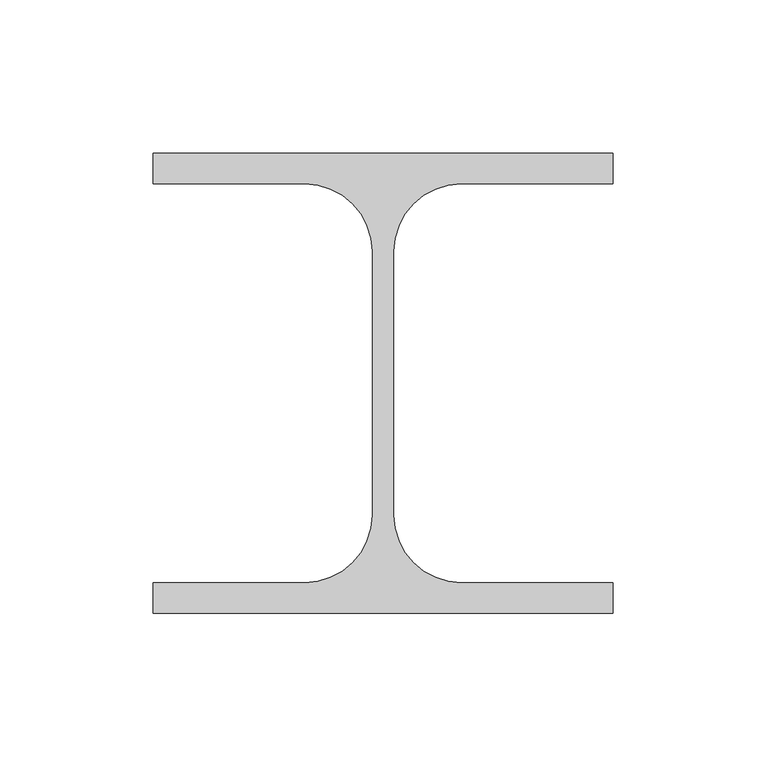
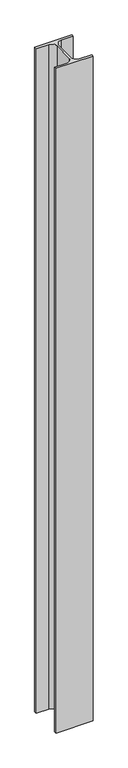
"""IFC4 building model written with IfcOpenShell, lengths in millimetres: column geometry, S柱 H型x : 階名+部材名."""

import ifcopenshell
import ifcopenshell.guid

model = None  # the IFC model being written
_history = None  # IfcOwnerHistory: only IFC2X3 demands one
_inside = {}  # id of a spatial element -> (the spatial element, [elements in it])
_under = {}  # id of a project, library or spatial element -> (it, [spatial elements below it])
_declared = {}  # id of a project -> (the project, [libraries it declares])
_typed = {}  # id of a type object -> (the type object, [elements of that type])
_made_of = {}  # id of a material, layer set ... -> (it, [elements and type objects made of it])


def new_model(schema):
    """Start an empty IFC model of exactly this schema.

    Asked for "IFC4X3", IfcOpenShell would pick the latest addendum, in which some entities
    have other attributes; the version numbers below select the first issue.
    IFC2X3 requires an IfcOwnerHistory on every rooted entity: one is made here for all.
    """
    global model, _history
    if schema == "IFC4X3":
        model = ifcopenshell.file(schema_version=(4, 3, 0, 0))
    else:
        model = ifcopenshell.file(schema=schema)
    _inside.clear()
    _under.clear()
    _declared.clear()
    _typed.clear()
    _made_of.clear()
    _history = None
    if model.schema == "IFC2X3":
        org = make("IfcOrganization", Name="unknown")
        user = make(
            "IfcPersonAndOrganization",
            ThePerson=make("IfcPerson", FamilyName="unknown"),
            TheOrganization=org,
        )
        app = make(
            "IfcApplication",
            ApplicationDeveloper=org,
            Version="unknown",
            ApplicationFullName="unknown",
            ApplicationIdentifier="unknown",
        )
        _history = make(
            "IfcOwnerHistory",
            OwningUser=user,
            OwningApplication=app,
            ChangeAction="ADDED",
            CreationDate=0,
        )
    return model


def make(cls, **values):
    """One entity of the class cls with the attributes given. An attribute that is None is left unset."""
    return model.create_entity(
        cls, **{name: value for name, value in values.items() if value is not None}
    )


def rooted(cls, **values):
    """An entity with a GlobalId (a new one), such as an element, a storey or a relation."""
    return make(cls, GlobalId=ifcopenshell.guid.new(), OwnerHistory=_history, **values)


def si_unit(unit_type, name, prefix=None):
    """IfcSIUnit, for example si_unit("LENGTHUNIT", "METRE", prefix="MILLI")."""
    return make("IfcSIUnit", UnitType=unit_type, Prefix=prefix, Name=name)


def assignment(units):
    """IfcUnitAssignment: the units of a project."""
    return None if units is None else make("IfcUnitAssignment", Units=units)


def point(xyz):
    """IfcCartesianPoint."""
    return None if xyz is None else make("IfcCartesianPoint", Coordinates=xyz)


def direction(xyz):
    """IfcDirection."""
    return None if xyz is None else make("IfcDirection", DirectionRatios=xyz)


def frame(location, z_axis=None, x_axis=None):
    """IfcAxis2Placement3D, a coordinate frame: its origin and axes. An axis left out is left unset."""
    return make(
        "IfcAxis2Placement3D",
        Location=point(location),
        Axis=direction(z_axis),
        RefDirection=direction(x_axis),
    )


def frame_2d(location, x_axis=None):
    """IfcAxis2Placement2D, a coordinate frame in the plane: its origin and x axis."""
    return make(
        "IfcAxis2Placement2D", Location=point(location), RefDirection=direction(x_axis)
    )


def origin():
    """The frame at (0, 0, 0) with its axes left unset."""
    return frame((0.0, 0.0, 0.0))


def place(relative_to, where):
    """IfcLocalPlacement: puts the frame where relative to a parent placement (None: the world)."""
    return make(
        "IfcLocalPlacement", PlacementRelTo=relative_to, RelativePlacement=where
    )


def context(
    kind, dimensions, precision=None, world=None, true_north=None, identifier=None
):
    """IfcGeometricRepresentationContext, for example the 3D "Model" context."""
    return make(
        "IfcGeometricRepresentationContext",
        ContextIdentifier=identifier,
        ContextType=kind,
        CoordinateSpaceDimension=dimensions,
        Precision=precision,
        WorldCoordinateSystem=world,
        TrueNorth=true_north,
    )


def project(units=None, contexts=None):
    """IfcProject with its units and contexts."""
    return rooted(
        "IfcProject",
        Name="project",
        RepresentationContexts=contexts,
        UnitsInContext=assignment(units),
    )


def spatial(cls, under=None, at=None, **own):
    """A site, building, storey or space (cls), placed at a placement, below another one or the project."""
    s = rooted(cls, ObjectPlacement=at, **own)
    if under is not None:
        _under.setdefault(under.id(), (under, []))[1].append(s)
    return s


def polyline(points):
    """IfcPolyline through the points."""
    return make("IfcPolyline", Points=[point(p) for p in points])


def circle_curve(where, radius):
    """IfcCircle in the frame where."""
    return make("IfcCircle", Position=where, Radius=radius)


def trimmed(basis, trim1, trim2, sense, master):
    """IfcTrimmedCurve: the piece of a basis curve between two trims."""
    return make(
        "IfcTrimmedCurve",
        BasisCurve=basis,
        Trim1=trim1,
        Trim2=trim2,
        SenseAgreement=sense,
        MasterRepresentation=master,
    )


def segment(curve, same_sense, transition):
    """IfcCompositeCurveSegment."""
    return make(
        "IfcCompositeCurveSegment",
        Transition=transition,
        SameSense=same_sense,
        ParentCurve=curve,
    )


def composite_curve(segments, self_intersect=None):
    """IfcCompositeCurve: segments joined end to end."""
    return make("IfcCompositeCurve", Segments=segments, SelfIntersect=self_intersect)


def outline(outer, holes=None, kind="AREA"):
    """IfcArbitraryClosedProfileDef: a profile drawn as a closed curve; with holes, ...WithVoids."""
    if holes is None:
        return make("IfcArbitraryClosedProfileDef", ProfileType=kind, OuterCurve=outer)
    return make(
        "IfcArbitraryProfileDefWithVoids",
        ProfileType=kind,
        OuterCurve=outer,
        InnerCurves=holes,
    )


def extrude(swept, where, along, depth):
    """IfcExtrudedAreaSolid: the profile swept, set in the frame where, extruded along a direction by depth."""
    return make(
        "IfcExtrudedAreaSolid",
        SweptArea=swept,
        Position=where,
        ExtrudedDirection=direction(along),
        Depth=depth,
    )


def shape(context_of_items, identifier, shape_type, items):
    """IfcShapeRepresentation: the items that make up one representation, for example the "Body"."""
    return make(
        "IfcShapeRepresentation",
        ContextOfItems=context_of_items,
        RepresentationIdentifier=identifier,
        RepresentationType=shape_type,
        Items=items,
    )


def source(mapping_origin, context_of_items, identifier, shape_type, items):
    """IfcRepresentationMap: a shape defined once, which mapped items show again and again."""
    return make(
        "IfcRepresentationMap",
        MappingOrigin=mapping_origin,
        MappedRepresentation=shape(context_of_items, identifier, shape_type, items),
    )


def transform(
    local_origin,
    x_axis=None,
    y_axis=None,
    z_axis=None,
    scale=None,
    scale2=None,
    scale3=None,
    uniform=True,
):
    """IfcCartesianTransformationOperator3D, or its non-uniform kind. x_axis, y_axis, z_axis: its Axis1, 2, 3."""
    if uniform:
        return make(
            "IfcCartesianTransformationOperator3D",
            Axis1=direction(x_axis),
            Axis2=direction(y_axis),
            LocalOrigin=point(local_origin),
            Scale=scale,
            Axis3=direction(z_axis),
        )
    return make(
        "IfcCartesianTransformationOperator3DnonUniform",
        Axis1=direction(x_axis),
        Axis2=direction(y_axis),
        LocalOrigin=point(local_origin),
        Scale=scale,
        Axis3=direction(z_axis),
        Scale2=scale2,
        Scale3=scale3,
    )


def mapped(mapping_source, mapping_target):
    """IfcMappedItem: shows the shape of a source again, moved by a transform."""
    return make(
        "IfcMappedItem", MappingSource=mapping_source, MappingTarget=mapping_target
    )


def made_of(thing, what):
    """Note that an element or type object is made of a material, layer set ...; save() writes the relation."""
    if what is not None:
        _made_of.setdefault(what.id(), (what, []))[1].append(thing)
    return thing


def element(
    cls,
    number,
    at=None,
    inside=None,
    cuts=None,
    type_object=None,
    material=None,
    context=None,
    identifier="Body",
    shape_type=None,
    held_by="IfcProductDefinitionShape",
    body=None,
    shapes=None,
    **own,
):
    """One element of the class cls, such as IfcWall. Its Tag is "e" and its number.

    at: its placement. inside: the storey or other place that contains it. cuts: it is an
    opening in that element (IfcRelVoidsElement). A single representation is given by context,
    identifier, shape_type and body (its items); several are given by shapes. held_by: the class
    of the entity that holds the representations. save() writes the other relations.
    """
    e = rooted(cls, Tag="e%d" % number, ObjectPlacement=at, **own)
    if body is not None:
        shapes = [shape(context, identifier, shape_type, body)]
    if shapes is not None:
        e.Representation = make(held_by, Representations=shapes)
    if inside is not None:
        _inside.setdefault(inside.id(), (inside, []))[1].append(e)
    if cuts is not None:
        rooted(
            "IfcRelVoidsElement", RelatingBuildingElement=cuts, RelatedOpeningElement=e
        )
    if type_object is not None:
        _typed.setdefault(type_object.id(), (type_object, []))[1].append(e)
    return made_of(e, material)


def aggregate(whole, parts):
    """IfcRelAggregates: a whole, such as a stair, and the parts it consists of."""
    return rooted("IfcRelAggregates", RelatingObject=whole, RelatedObjects=parts)


def save(model, path):
    """Write the relations noted so far, then the file.

    IfcRelAggregates (storeys below a building ...), IfcRelContainedInSpatialStructure (elements
    in a storey), IfcRelDefinesByType, IfcRelAssociatesMaterial and IfcRelDeclares: one each for
    every whole, place, type object, material and project.
    """
    for whole, parts in _under.values():
        aggregate(whole, parts)
    for where, things in _inside.values():
        rooted(
            "IfcRelContainedInSpatialStructure",
            RelatedElements=things,
            RelatingStructure=where,
        )
    for kind, things in _typed.values():
        rooted("IfcRelDefinesByType", RelatedObjects=things, RelatingType=kind)
    for what, things in _made_of.values():
        rooted("IfcRelAssociatesMaterial", RelatedObjects=things, RelatingMaterial=what)
    for by, libraries in _declared.values():
        rooted("IfcRelDeclares", RelatingContext=by, RelatedDefinitions=libraries)
    model.write(path)


def column_e4589e5c(model_context):
    return source(origin(), model_context, "Body", "SweptSolid", [
        extrude(outline(composite_curve([segment(polyline([(75.0, 75.0), (75.0, 65.0), (25.5, 65.0)]), True, "CONTINUOUS"), segment(trimmed(circle_curve(frame_2d((25.5, 43.0)), 22.0), [point((25.5, 65.0))], [point((3.5, 43.0))], True, "CARTESIAN"), True, "CONTINUOUS"), segment(polyline([(3.5, 43.0), (3.5, -43.0)]), True, "CONTINUOUS"), segment(trimmed(circle_curve(frame_2d((25.5, -43.0)), 22.0), [point((3.5, -43.0))], [point((25.5, -65.0))], True, "CARTESIAN"), True, "CONTINUOUS"), segment(polyline([(25.5, -65.0), (75.0, -65.0), (75.0, -75.0), (-75.0, -75.0), (-75.0, -65.0), (-25.5, -65.0)]), True, "CONTINUOUS"), segment(trimmed(circle_curve(frame_2d((-25.5, -43.0)), 22.0), [point((-25.5, -65.0))], [point((-3.5, -43.0))], True, "CARTESIAN"), True, "CONTINUOUS"), segment(polyline([(-3.5, -43.0), (-3.5, 43.0)]), True, "CONTINUOUS"), segment(trimmed(circle_curve(frame_2d((-25.5, 43.0)), 22.0), [point((-3.5, 43.0))], [point((-25.5, 65.0))], True, "CARTESIAN"), True, "CONTINUOUS"), segment(polyline([(-25.5, 65.0), (-75.0, 65.0), (-75.0, 75.0), (75.0, 75.0)]), True, "CONTINUOUS")], self_intersect=False)), frame((0.0, 0.0, 3250.0), z_axis=(0.0, 0.0, 1.0), x_axis=(1.0, 0.0, 0.0)), (0.0, 0.0, 1.0), 2840.0),
    ])


if __name__ == "__main__":
    model = new_model("IFC4")
    model_context = context("Model", 3, world=origin())
    ifc_project = project(units=[si_unit("LENGTHUNIT", "METRE", prefix="MILLI")], contexts=[model_context])
    site = spatial("IfcSite", under=ifc_project)
    building = spatial("IfcBuilding", under=site)
    placement = place(None, origin())
    column_shape = column_e4589e5c(model_context)
    element("IfcColumn", 1, ObjectType="S柱 H型x : 階名+部材名", at=placement, inside=building, context=model_context, shape_type="MappedRepresentation", body=[
        mapped(column_shape, transform((0.0, 0.0, 0.0), x_axis=(1.0, 0.0, 0.0), y_axis=(0.0, 1.0, 0.0), z_axis=(0.0, 0.0, 1.0))),
    ])
    save(model, "model.ifc")
